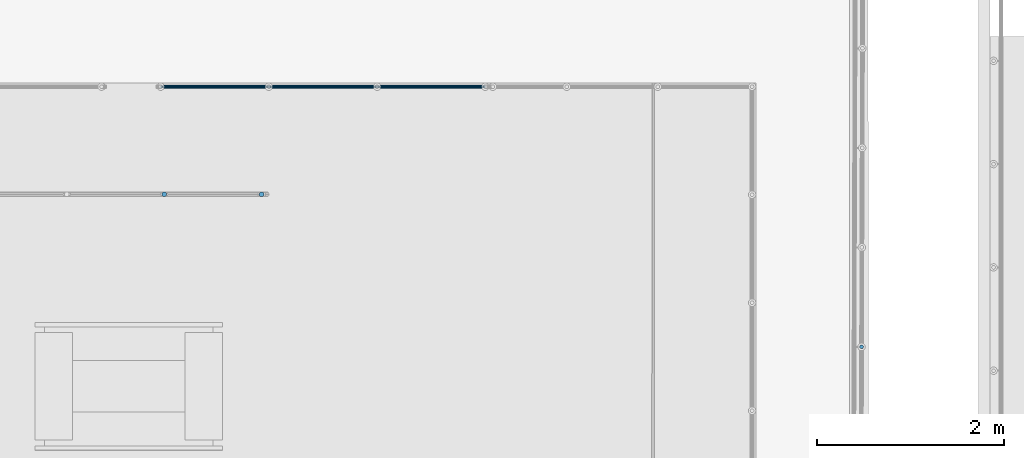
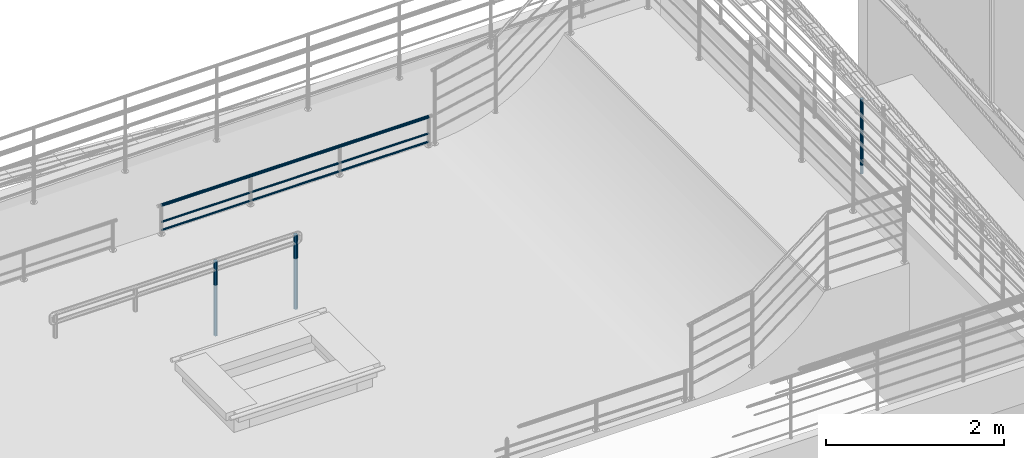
# One storey, part 49 of 237: 6 building element parts, 3 elements without a shape of their own.
"""IFC2X3 building model written with IfcOpenShell, lengths in millimetres."""

from ifc_helpers import new_model, entity, si_unit, converted_unit, derived_unit, money_unit, direction, frame, origin_with_axes, place, context, subcontext, project, spatial, faceted_brep, material, type_object, element, aggregate, save


model = new_model("IFC2X3")

# Units and contexts
model_context = context("Model", 3, precision=0.01, world=origin_with_axes(), true_north=direction((0.0, 1.0)))
body_context = subcontext(model_context, "Body", "Model", "MODEL_VIEW")
ifc_project = project(units=[si_unit("LENGTHUNIT", "METRE", prefix="MILLI"), si_unit("AREAUNIT", "SQUARE_METRE"), si_unit("VOLUMEUNIT", "CUBIC_METRE"), converted_unit("PLANEANGLEUNIT", "DEGREE", entity("IfcPlaneAngleMeasure", 0.0174532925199), si_unit("PLANEANGLEUNIT", "RADIAN"), dimensions=[0, 0, 0, 0, 0, 0, 0]), money_unit("USD"), converted_unit("TIMEUNIT", "Year", entity("IfcTimeMeasure", 31556926.0), si_unit("TIMEUNIT", "SECOND"), dimensions=[0, 0, 1, 0, 0, 0, 0]), si_unit("MASSUNIT", "GRAM", prefix="KILO"), si_unit("THERMODYNAMICTEMPERATUREUNIT", "DEGREE_CELSIUS"), si_unit("LUMINOUSINTENSITYUNIT", "LUMEN"), si_unit("ENERGYUNIT", "JOULE", prefix="MEGA"), derived_unit("THERMALCONDUCTANCEUNIT", [(si_unit("POWERUNIT", "WATT"), 1), (si_unit("LENGTHUNIT", "METRE"), -1), (si_unit("THERMODYNAMICTEMPERATUREUNIT", "KELVIN"), -1)]), derived_unit("SPECIFICHEATCAPACITYUNIT", [(si_unit("ENERGYUNIT", "JOULE"), 1), (si_unit("MASSUNIT", "GRAM", prefix="KILO"), -1), (si_unit("THERMODYNAMICTEMPERATUREUNIT", "KELVIN"), -1)]), derived_unit("MASSDENSITYUNIT", [(si_unit("MASSUNIT", "GRAM", prefix="KILO"), 1), (si_unit("VOLUMEUNIT", "CUBIC_METRE"), -1)])], contexts=[model_context])

# Site, building, storey
site_placement = place(None, origin_with_axes())
site = spatial("IfcSite", under=ifc_project, at=site_placement, Name="Local", CompositionType="ELEMENT")
building_placement = place(site_placement, origin_with_axes())
building = spatial("IfcBuilding", under=site, at=building_placement, Name="Construção", CompositionType="ELEMENT")
storey_placement = place(building_placement, origin_with_axes())
storey = spatial("IfcBuildingStorey", under=building, at=storey_placement, Name="Pavimento Térreo", CompositionType="ELEMENT", Elevation=0.0)

# Railing, building element part
railing_type = type_object("IfcRailingType", Name="Tipo de Guarda-Corpo", PredefinedType="NOTDEFINED")
railing_1_placement = place(storey_placement, frame((70326.6870103, 28675.2458388, -1357.10819655), z_axis=(0.0, 0.0, 1.0), x_axis=(1.0, 0.0, 0.0)))
railing_1 = element("IfcRailing", 1, at=railing_1_placement, inside=storey, type_object=railing_type, Name="Guarda-Corpo - 004", PredefinedType="NOTDEFINED")
ifc_material_1 = material(Name="Aço - Inoxidável")
building_element_part_1_placement = place(railing_1_placement, origin_with_axes())
building_element_part_1 = element("IfcBuildingElementPart", 2, at=building_element_part_1_placement, material=ifc_material_1, Name="Aço - Inoxidável", context=body_context, shape_type="Brep", body=[
    faceted_brep([(-4714.92495282, 2396.12667409, 5.0), (-4714.61071051, 2399.5987123, 5.0), (-4714.61071051, 2399.5987123, 1030.0), (-4714.92495282, 2396.12667409, 1030.0), (-4714.90415536, 2403.07257006, 5.0), (-4715.83733419, 2392.76195154, 5.0), (-4717.32013238, 2389.60678005, 5.0), (-4719.32829331, 2386.75702791, 5.0), (-4721.80080003, 2384.29928339, 5.0), (-4724.66252667, 2382.30822382, 5.0), (-4727.82652112, 2380.84434653, 5.0), (-4731.19664701, 2379.9521307, 5.0), (-4734.67050476, 2379.65868586, 5.0), (-4738.14254298, 2379.97292817, 5.0), (-4741.50726553, 2380.88530954, 5.0), (-4744.66243702, 2382.36810772, 5.0), (-4747.51218916, 2384.37626865, 5.0), (-4749.96993368, 2386.84877537, 5.0), (-4751.96099325, 2389.71050201, 5.0), (-4753.42487053, 2392.87449646, 5.0), (-4754.31708636, 2396.24462235, 5.0), (-4754.61053121, 2399.71848011, 5.0), (-4754.2962889, 2403.19051832, 5.0), (-4753.38390753, 2406.55524087, 5.0), (-4751.90110935, 2409.71041236, 5.0), (-4749.89294842, 2412.5601645, 5.0), (-4747.4204417, 2415.01790902, 5.0), (-4744.55871505, 2417.00896859, 5.0), (-4741.3947206, 2418.47284588, 5.0), (-4738.02459472, 2419.36506171, 5.0), (-4734.55073696, 2419.65850655, 5.0), (-4731.07869874, 2419.34426424, 5.0), (-4727.7139762, 2418.43188287, 5.0), (-4724.55880471, 2416.94908469, 5.0), (-4721.70905256, 2414.94092376, 5.0), (-4719.25130805, 2412.46841704, 5.0), (-4717.26024848, 2409.6066904, 5.0), (-4715.79637119, 2406.44269595, 5.0), (-4714.90415536, 2403.07257006, 1030.0), (-4738.14254298, 2379.97292817, 1030.0), (-4734.67050476, 2379.65868586, 1030.0), (-4731.19664701, 2379.9521307, 1030.0), (-4727.82652112, 2380.84434653, 1030.0), (-4724.66252667, 2382.30822382, 1030.0), (-4721.80080003, 2384.29928339, 1030.0), (-4719.32829331, 2386.75702791, 1030.0), (-4717.32013238, 2389.60678005, 1030.0), (-4715.83733419, 2392.76195154, 1030.0), (-4715.79637119, 2406.44269595, 1030.0), (-4717.26024848, 2409.6066904, 1030.0), (-4719.25130805, 2412.46841704, 1030.0), (-4721.70905256, 2414.94092376, 1030.0), (-4724.55880471, 2416.94908469, 1030.0), (-4727.7139762, 2418.43188287, 1030.0), (-4731.07869874, 2419.34426424, 1030.0), (-4734.55073696, 2419.65850655, 1030.0), (-4738.02459472, 2419.36506171, 1030.0), (-4741.3947206, 2418.47284588, 1030.0), (-4744.55871505, 2417.00896859, 1030.0), (-4747.4204417, 2415.01790902, 1030.0), (-4749.89294842, 2412.5601645, 1030.0), (-4751.90110935, 2409.71041236, 1030.0), (-4753.38390753, 2406.55524087, 1030.0), (-4754.2962889, 2403.19051832, 1030.0), (-4754.61053121, 2399.71848011, 1030.0), (-4754.31708636, 2396.24462235, 1030.0), (-4753.42487053, 2392.87449646, 1030.0), (-4751.96099325, 2389.71050201, 1030.0), (-4749.96993368, 2386.84877537, 1030.0), (-4747.51218916, 2384.37626865, 1030.0), (-4744.66243702, 2382.36810772, 1030.0), (-4741.50726553, 2380.88530954, 1030.0)], [[[0, 1, 2, 3]], [[4, 1, 0, 5, 6, 7, 8, 9, 10, 11, 12, 13, 14, 15, 16, 17, 18, 19, 20, 21, 22, 23, 24, 25, 26, 27, 28, 29, 30, 31, 32, 33, 34, 35, 36, 37]], [[1, 4, 38, 2]], [[39, 40, 41, 42, 43, 44, 45, 46, 47, 3, 2, 38, 48, 49, 50, 51, 52, 53, 54, 55, 56, 57, 58, 59, 60, 61, 62, 63, 64, 65, 66, 67, 68, 69, 70, 71]], [[5, 0, 3, 47]], [[6, 5, 47, 46]], [[7, 6, 46, 45]], [[8, 7, 45, 44]], [[9, 8, 44, 43]], [[10, 9, 43, 42]], [[11, 10, 42, 41]], [[12, 11, 41, 40]], [[13, 12, 40, 39]], [[14, 13, 39, 71]], [[15, 14, 71, 70]], [[16, 15, 70, 69]], [[17, 16, 69, 68]], [[18, 17, 68, 67]], [[19, 18, 67, 66]], [[20, 19, 66, 65]], [[21, 20, 65, 64]], [[22, 21, 64, 63]], [[23, 22, 63, 62]], [[24, 23, 62, 61]], [[25, 24, 61, 60]], [[26, 25, 60, 59]], [[27, 26, 59, 58]], [[28, 27, 58, 57]], [[29, 28, 57, 56]], [[30, 29, 56, 55]], [[31, 30, 55, 54]], [[32, 31, 54, 53]], [[33, 32, 53, 52]], [[34, 33, 52, 51]], [[35, 34, 51, 50]], [[36, 35, 50, 49]], [[37, 36, 49, 48]], [[4, 37, 48, 38]]]),
])
aggregate(railing_1, [building_element_part_1])

# Railing, building element parts
railing_2_placement = place(storey_placement, frame((61612.4440926, 33894.7133519, -1887.10818411), z_axis=(0.0, 0.0, 1.0), x_axis=(-1.0, 0.0, 0.0)))
railing_2 = element("IfcRailing", 3, at=railing_2_placement, inside=storey, type_object=railing_type, Name="Guarda-Corpo - 002", PredefinedType="NOTDEFINED")
building_element_part_2_placement = place(railing_2_placement, origin_with_axes())
building_element_part_2 = element("IfcBuildingElementPart", 4, at=building_element_part_2_placement, material=ifc_material_1, Name="Aço - Inoxidável", context=body_context, shape_type="Brep", body=[
    faceted_brep([(40.0, 60.0, 1030.0), (40.0, 59.6961550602, 1033.47296355), (3510.0, 59.6961550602, 1033.47296355), (3510.0, 60.0, 1030.0), (40.0, 59.6961550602, 1026.52703645), (40.0, 58.7938524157, 1023.15959713), (40.0, 57.3205080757, 1020.0), (40.0, 55.3208888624, 1017.14424781), (40.0, 52.8557521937, 1014.67911114), (40.0, 50.0, 1012.67949192), (40.0, 46.8404028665, 1011.20614758), (40.0, 43.4729635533, 1010.30384494), (40.0, 40.0, 1010.0), (40.0, 36.5270364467, 1010.30384494), (40.0, 33.1595971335, 1011.20614758), (40.0, 30.0, 1012.67949192), (40.0, 27.1442478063, 1014.67911114), (40.0, 24.6791111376, 1017.14424781), (40.0, 22.6794919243, 1020.0), (40.0, 21.2061475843, 1023.15959713), (40.0, 20.3038449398, 1026.52703645), (40.0, 20.0, 1030.0), (40.0, 20.3038449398, 1033.47296355), (40.0, 21.2061475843, 1036.84040287), (40.0, 22.6794919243, 1040.0), (40.0, 24.6791111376, 1042.85575219), (40.0, 27.1442478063, 1045.32088886), (40.0, 30.0, 1047.32050808), (40.0, 33.1595971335, 1048.79385242), (40.0, 36.5270364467, 1049.69615506), (40.0, 40.0, 1050.0), (40.0, 43.4729635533, 1049.69615506), (40.0, 46.8404028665, 1048.79385242), (40.0, 50.0, 1047.32050808), (40.0, 52.8557521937, 1045.32088886), (40.0, 55.3208888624, 1042.85575219), (40.0, 57.3205080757, 1040.0), (40.0, 58.7938524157, 1036.84040287), (3510.0, 58.7938524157, 1036.84040287), (3510.0, 57.3205080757, 1040.0), (3510.0, 55.3208888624, 1042.85575219), (3510.0, 52.8557521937, 1045.32088886), (3510.0, 50.0, 1047.32050808), (3510.0, 46.8404028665, 1048.79385242), (3510.0, 43.4729635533, 1049.69615506), (3510.0, 40.0, 1050.0), (3510.0, 36.5270364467, 1049.69615506), (3510.0, 33.1595971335, 1048.79385242), (3510.0, 30.0, 1047.32050808), (3510.0, 27.1442478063, 1045.32088886), (3510.0, 24.6791111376, 1042.85575219), (3510.0, 22.6794919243, 1040.0), (3510.0, 21.2061475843, 1036.84040287), (3510.0, 20.3038449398, 1033.47296355), (3510.0, 20.0, 1030.0), (3510.0, 20.3038449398, 1026.52703645), (3510.0, 21.2061475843, 1023.15959713), (3510.0, 22.6794919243, 1020.0), (3510.0, 24.6791111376, 1017.14424781), (3510.0, 27.1442478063, 1014.67911114), (3510.0, 30.0, 1012.67949192), (3510.0, 33.1595971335, 1011.20614758), (3510.0, 36.5270364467, 1010.30384494), (3510.0, 40.0, 1010.0), (3510.0, 43.4729635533, 1010.30384494), (3510.0, 46.8404028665, 1011.20614758), (3510.0, 50.0, 1012.67949192), (3510.0, 52.8557521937, 1014.67911114), (3510.0, 55.3208888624, 1017.14424781), (3510.0, 57.3205080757, 1020.0), (3510.0, 58.7938524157, 1023.15959713), (3510.0, 59.6961550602, 1026.52703645)], [[[0, 1, 2, 3]], [[0, 4, 5, 6, 7, 8, 9, 10, 11, 12, 13, 14, 15, 16, 17, 18, 19, 20, 21, 22, 23, 24, 25, 26, 27, 28, 29, 30, 31, 32, 33, 34, 35, 36, 37, 1]], [[1, 37, 38, 2]], [[3, 2, 38, 39, 40, 41, 42, 43, 44, 45, 46, 47, 48, 49, 50, 51, 52, 53, 54, 55, 56, 57, 58, 59, 60, 61, 62, 63, 64, 65, 66, 67, 68, 69, 70, 71]], [[4, 0, 3, 71]], [[5, 4, 71, 70]], [[6, 5, 70, 69]], [[7, 6, 69, 68]], [[8, 7, 68, 67]], [[9, 8, 67, 66]], [[10, 9, 66, 65]], [[11, 10, 65, 64]], [[12, 11, 64, 63]], [[13, 12, 63, 62]], [[14, 13, 62, 61]], [[15, 14, 61, 60]], [[16, 15, 60, 59]], [[17, 16, 59, 58]], [[18, 17, 58, 57]], [[19, 18, 57, 56]], [[20, 19, 56, 55]], [[21, 20, 55, 54]], [[22, 21, 54, 53]], [[23, 22, 53, 52]], [[24, 23, 52, 51]], [[25, 24, 51, 50]], [[26, 25, 50, 49]], [[27, 26, 49, 48]], [[28, 27, 48, 47]], [[29, 28, 47, 46]], [[30, 29, 46, 45]], [[31, 30, 45, 44]], [[32, 31, 44, 43]], [[33, 32, 43, 42]], [[34, 33, 42, 41]], [[35, 34, 41, 40]], [[36, 35, 40, 39]], [[37, 36, 39, 38]]]),
])
building_element_part_3_placement = place(railing_2_placement, origin_with_axes())
building_element_part_3 = element("IfcBuildingElementPart", 5, at=building_element_part_3_placement, material=ifc_material_1, Name="Aço - Inoxidável", context=body_context, shape_type="Brep", body=[
    faceted_brep([(40.0, 50.0, 687.132352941), (40.0, 49.8480775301, 688.868834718), (3510.0, 49.8480775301, 688.868834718), (3510.0, 50.0, 687.132352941), (40.0, 49.8480775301, 685.395871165), (40.0, 49.3969262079, 683.712151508), (40.0, 48.6602540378, 682.132352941), (40.0, 47.6604444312, 680.704476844), (40.0, 46.4278760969, 679.47190851), (40.0, 45.0, 678.472098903), (40.0, 43.4202014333, 677.735426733), (40.0, 41.7364817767, 677.284275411), (40.0, 40.0, 677.132352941), (40.0, 38.2635182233, 677.284275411), (40.0, 36.5797985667, 677.735426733), (40.0, 35.0, 678.472098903), (40.0, 33.5721239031, 679.47190851), (40.0, 32.3395555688, 680.704476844), (40.0, 31.3397459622, 682.132352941), (40.0, 30.6030737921, 683.712151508), (40.0, 30.1519224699, 685.395871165), (40.0, 30.0, 687.132352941), (40.0, 30.1519224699, 688.868834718), (40.0, 30.6030737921, 690.552554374), (40.0, 31.3397459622, 692.132352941), (40.0, 32.3395555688, 693.560229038), (40.0, 33.5721239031, 694.792797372), (40.0, 35.0, 695.792606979), (40.0, 36.5797985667, 696.529279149), (40.0, 38.2635182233, 696.980430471), (40.0, 40.0, 697.132352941), (40.0, 41.7364817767, 696.980430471), (40.0, 43.4202014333, 696.529279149), (40.0, 45.0, 695.792606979), (40.0, 46.4278760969, 694.792797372), (40.0, 47.6604444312, 693.560229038), (40.0, 48.6602540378, 692.132352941), (40.0, 49.3969262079, 690.552554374), (3510.0, 49.3969262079, 690.552554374), (3510.0, 48.6602540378, 692.132352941), (3510.0, 47.6604444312, 693.560229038), (3510.0, 46.4278760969, 694.792797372), (3510.0, 45.0, 695.792606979), (3510.0, 43.4202014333, 696.529279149), (3510.0, 41.7364817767, 696.980430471), (3510.0, 40.0, 697.132352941), (3510.0, 38.2635182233, 696.980430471), (3510.0, 36.5797985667, 696.529279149), (3510.0, 35.0, 695.792606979), (3510.0, 33.5721239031, 694.792797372), (3510.0, 32.3395555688, 693.560229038), (3510.0, 31.3397459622, 692.132352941), (3510.0, 30.6030737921, 690.552554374), (3510.0, 30.1519224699, 688.868834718), (3510.0, 30.0, 687.132352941), (3510.0, 30.1519224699, 685.395871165), (3510.0, 30.6030737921, 683.712151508), (3510.0, 31.3397459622, 682.132352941), (3510.0, 32.3395555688, 680.704476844), (3510.0, 33.5721239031, 679.47190851), (3510.0, 35.0, 678.472098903), (3510.0, 36.5797985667, 677.735426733), (3510.0, 38.2635182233, 677.284275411), (3510.0, 40.0, 677.132352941), (3510.0, 41.7364817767, 677.284275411), (3510.0, 43.4202014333, 677.735426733), (3510.0, 45.0, 678.472098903), (3510.0, 46.4278760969, 679.47190851), (3510.0, 47.6604444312, 680.704476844), (3510.0, 48.6602540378, 682.132352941), (3510.0, 49.3969262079, 683.712151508), (3510.0, 49.8480775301, 685.395871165)], [[[0, 1, 2, 3]], [[0, 4, 5, 6, 7, 8, 9, 10, 11, 12, 13, 14, 15, 16, 17, 18, 19, 20, 21, 22, 23, 24, 25, 26, 27, 28, 29, 30, 31, 32, 33, 34, 35, 36, 37, 1]], [[1, 37, 38, 2]], [[3, 2, 38, 39, 40, 41, 42, 43, 44, 45, 46, 47, 48, 49, 50, 51, 52, 53, 54, 55, 56, 57, 58, 59, 60, 61, 62, 63, 64, 65, 66, 67, 68, 69, 70, 71]], [[4, 0, 3, 71]], [[5, 4, 71, 70]], [[6, 5, 70, 69]], [[7, 6, 69, 68]], [[8, 7, 68, 67]], [[9, 8, 67, 66]], [[10, 9, 66, 65]], [[11, 10, 65, 64]], [[12, 11, 64, 63]], [[13, 12, 63, 62]], [[14, 13, 62, 61]], [[15, 14, 61, 60]], [[16, 15, 60, 59]], [[17, 16, 59, 58]], [[18, 17, 58, 57]], [[19, 18, 57, 56]], [[20, 19, 56, 55]], [[21, 20, 55, 54]], [[22, 21, 54, 53]], [[23, 22, 53, 52]], [[24, 23, 52, 51]], [[25, 24, 51, 50]], [[26, 25, 50, 49]], [[27, 26, 49, 48]], [[28, 27, 48, 47]], [[29, 28, 47, 46]], [[30, 29, 46, 45]], [[31, 30, 45, 44]], [[32, 31, 44, 43]], [[33, 32, 43, 42]], [[34, 33, 42, 41]], [[35, 34, 41, 40]], [[36, 35, 40, 39]], [[37, 36, 39, 38]]]),
])
building_element_part_4_placement = place(railing_2_placement, origin_with_axes())
building_element_part_4 = element("IfcBuildingElementPart", 6, at=building_element_part_4_placement, material=ifc_material_1, Name="Aço - Inoxidável", context=body_context, shape_type="Brep", body=[
    faceted_brep([(40.0, 50.0, 800.0), (40.0, 49.8480775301, 801.736481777), (3510.0, 49.8480775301, 801.736481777), (3510.0, 50.0, 800.0), (40.0, 49.8480775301, 798.263518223), (40.0, 49.3969262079, 796.579798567), (40.0, 48.6602540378, 795.0), (40.0, 47.6604444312, 793.572123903), (40.0, 46.4278760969, 792.339555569), (40.0, 45.0, 791.339745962), (40.0, 43.4202014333, 790.603073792), (40.0, 41.7364817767, 790.15192247), (40.0, 40.0, 790.0), (40.0, 38.2635182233, 790.15192247), (40.0, 36.5797985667, 790.603073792), (40.0, 35.0, 791.339745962), (40.0, 33.5721239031, 792.339555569), (40.0, 32.3395555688, 793.572123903), (40.0, 31.3397459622, 795.0), (40.0, 30.6030737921, 796.579798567), (40.0, 30.1519224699, 798.263518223), (40.0, 30.0, 800.0), (40.0, 30.1519224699, 801.736481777), (40.0, 30.6030737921, 803.420201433), (40.0, 31.3397459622, 805.0), (40.0, 32.3395555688, 806.427876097), (40.0, 33.5721239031, 807.660444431), (40.0, 35.0, 808.660254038), (40.0, 36.5797985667, 809.396926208), (40.0, 38.2635182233, 809.84807753), (40.0, 40.0, 810.0), (40.0, 41.7364817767, 809.84807753), (40.0, 43.4202014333, 809.396926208), (40.0, 45.0, 808.660254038), (40.0, 46.4278760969, 807.660444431), (40.0, 47.6604444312, 806.427876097), (40.0, 48.6602540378, 805.0), (40.0, 49.3969262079, 803.420201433), (3510.0, 49.3969262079, 803.420201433), (3510.0, 48.6602540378, 805.0), (3510.0, 47.6604444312, 806.427876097), (3510.0, 46.4278760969, 807.660444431), (3510.0, 45.0, 808.660254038), (3510.0, 43.4202014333, 809.396926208), (3510.0, 41.7364817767, 809.84807753), (3510.0, 40.0, 810.0), (3510.0, 38.2635182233, 809.84807753), (3510.0, 36.5797985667, 809.396926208), (3510.0, 35.0, 808.660254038), (3510.0, 33.5721239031, 807.660444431), (3510.0, 32.3395555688, 806.427876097), (3510.0, 31.3397459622, 805.0), (3510.0, 30.6030737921, 803.420201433), (3510.0, 30.1519224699, 801.736481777), (3510.0, 30.0, 800.0), (3510.0, 30.1519224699, 798.263518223), (3510.0, 30.6030737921, 796.579798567), (3510.0, 31.3397459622, 795.0), (3510.0, 32.3395555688, 793.572123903), (3510.0, 33.5721239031, 792.339555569), (3510.0, 35.0, 791.339745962), (3510.0, 36.5797985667, 790.603073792), (3510.0, 38.2635182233, 790.15192247), (3510.0, 40.0, 790.0), (3510.0, 41.7364817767, 790.15192247), (3510.0, 43.4202014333, 790.603073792), (3510.0, 45.0, 791.339745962), (3510.0, 46.4278760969, 792.339555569), (3510.0, 47.6604444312, 793.572123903), (3510.0, 48.6602540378, 795.0), (3510.0, 49.3969262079, 796.579798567), (3510.0, 49.8480775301, 798.263518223)], [[[0, 1, 2, 3]], [[0, 4, 5, 6, 7, 8, 9, 10, 11, 12, 13, 14, 15, 16, 17, 18, 19, 20, 21, 22, 23, 24, 25, 26, 27, 28, 29, 30, 31, 32, 33, 34, 35, 36, 37, 1]], [[1, 37, 38, 2]], [[3, 2, 38, 39, 40, 41, 42, 43, 44, 45, 46, 47, 48, 49, 50, 51, 52, 53, 54, 55, 56, 57, 58, 59, 60, 61, 62, 63, 64, 65, 66, 67, 68, 69, 70, 71]], [[4, 0, 3, 71]], [[5, 4, 71, 70]], [[6, 5, 70, 69]], [[7, 6, 69, 68]], [[8, 7, 68, 67]], [[9, 8, 67, 66]], [[10, 9, 66, 65]], [[11, 10, 65, 64]], [[12, 11, 64, 63]], [[13, 12, 63, 62]], [[14, 13, 62, 61]], [[15, 14, 61, 60]], [[16, 15, 60, 59]], [[17, 16, 59, 58]], [[18, 17, 58, 57]], [[19, 18, 57, 56]], [[20, 19, 56, 55]], [[21, 20, 55, 54]], [[22, 21, 54, 53]], [[23, 22, 53, 52]], [[24, 23, 52, 51]], [[25, 24, 51, 50]], [[26, 25, 50, 49]], [[27, 26, 49, 48]], [[28, 27, 48, 47]], [[29, 28, 47, 46]], [[30, 29, 46, 45]], [[31, 30, 45, 44]], [[32, 31, 44, 43]], [[33, 32, 43, 42]], [[34, 33, 42, 41]], [[35, 34, 41, 40]], [[36, 35, 40, 39]], [[37, 36, 39, 38]]]),
])
aggregate(railing_2, [building_element_part_2, building_element_part_3, building_element_part_4])

railing_3_placement = place(storey_placement, frame((56020.9807317, 32685.2089387, -1957.10819431), z_axis=(0.0, 0.0, 1.0), x_axis=(1.0, 0.0, 0.0)))
railing_3 = element("IfcRailing", 7, at=railing_3_placement, inside=storey, type_object=railing_type, Name="Guarda-Corpo - 001", PredefinedType="NOTDEFINED")
ifc_material_2 = material(Name="Aço - Estrutural")
building_element_part_5_placement = place(railing_3_placement, origin_with_axes())
building_element_part_5 = element("IfcBuildingElementPart", 8, at=building_element_part_5_placement, material=ifc_material_2, Name="Aço - Estrutural", context=body_context, shape_type="Brep", body=[
    faceted_brep([(3174.85735122, 0.0, 5.0), (3176.06969024, 0.848888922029, 5.0), (3176.06969024, 0.848888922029, 1020.0), (3172.5, -1.65063509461, 1020.0), (3172.5, -1.65063509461, 0.0), (3174.85735122, 0.0, 0.0), (3145.14264878, 0.0, 5.0), (3143.93030976, 0.848888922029, 5.0), (3140.84888892, 3.93030975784, 5.0), (3138.34936491, 7.5, 5.0), (3136.50768448, 11.4494964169, 5.0), (3135.37980617, 15.6587955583, 5.0), (3135.0, 20.0, 5.0), (3135.37980617, 24.3412044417, 5.0), (3136.50768448, 28.5505035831, 5.0), (3138.34936491, 32.5, 5.0), (3140.84888892, 36.0696902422, 5.0), (3143.93030976, 39.151111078, 5.0), (3145.14264878, 40.0, 5.0), (3174.85735122, 40.0, 5.0), (3176.06969024, 39.151111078, 5.0), (3179.15111108, 36.0696902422, 5.0), (3181.65063509, 32.5, 5.0), (3183.49231552, 28.5505035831, 5.0), (3184.62019383, 24.3412044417, 5.0), (3185.0, 20.0, 5.0), (3184.62019383, 15.6587955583, 5.0), (3183.49231552, 11.4494964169, 5.0), (3181.65063509, 7.5, 5.0), (3179.15111108, 3.93030975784, 5.0), (3179.15111108, 3.93030975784, 1020.0), (3135.37980617, 24.3412044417, 1020.0), (3135.0, 20.0, 1020.0), (3135.37980617, 15.6587955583, 1020.0), (3136.50768448, 11.4494964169, 1020.0), (3138.34936491, 7.5, 1020.0), (3140.84888892, 3.93030975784, 1020.0), (3143.93030976, 0.848888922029, 1020.0), (3147.5, -1.65063509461, 1020.0), (3151.44949642, -3.49231551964, 1020.0), (3155.65879556, -4.6201938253, 1020.0), (3160.0, -5.0, 1020.0), (3164.34120444, -4.6201938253, 1020.0), (3168.55050358, -3.49231551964, 1020.0), (3181.65063509, 7.5, 1020.0), (3183.49231552, 11.4494964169, 1020.0), (3184.62019383, 15.6587955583, 1020.0), (3185.0, 20.0, 1020.0), (3184.62019383, 24.3412044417, 1020.0), (3183.49231552, 28.5505035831, 1020.0), (3181.65063509, 32.5, 1020.0), (3179.15111108, 36.0696902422, 1020.0), (3176.06969024, 39.151111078, 1020.0), (3172.5, 41.6506350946, 1020.0), (3168.55050358, 43.4923155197, 1020.0), (3164.34120444, 44.6201938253, 1020.0), (3160.0, 45.0, 1020.0), (3155.65879556, 44.6201938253, 1020.0), (3151.44949642, 43.4923155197, 1020.0), (3147.5, 41.6506350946, 1020.0), (3143.93030976, 39.151111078, 1020.0), (3140.84888892, 36.0696902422, 1020.0), (3138.34936491, 32.5, 1020.0), (3136.50768448, 28.5505035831, 1020.0), (3168.55050358, -3.49231551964, 0.0), (3145.14264878, 0.0, 0.0), (3164.34120444, -4.6201938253, 0.0), (3160.0, -5.0, 0.0), (3155.65879556, -4.6201938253, 0.0), (3151.44949642, -3.49231551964, 0.0), (3147.5, -1.65063509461, 0.0), (3147.5, 41.6506350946, 0.0), (3145.14264878, 40.0, 0.0), (3174.85735122, 40.0, 0.0), (3172.5, 41.6506350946, 0.0), (3168.55050358, 43.4923155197, 0.0), (3164.34120444, 44.6201938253, 0.0), (3160.0, 45.0, 0.0), (3155.65879556, 44.6201938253, 0.0), (3151.44949642, 43.4923155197, 0.0)], [[[0, 1, 2, 3, 4, 5]], [[1, 0, 6, 7, 8, 9, 10, 11, 12, 13, 14, 15, 16, 17, 18, 19, 20, 21, 22, 23, 24, 25, 26, 27, 28, 29]], [[1, 29, 30, 2]], [[31, 32, 33, 34, 35, 36, 37, 38, 39, 40, 41, 42, 43, 3, 2, 30, 44, 45, 46, 47, 48, 49, 50, 51, 52, 53, 54, 55, 56, 57, 58, 59, 60, 61, 62, 63]], [[43, 64, 4, 3]], [[65, 5, 4, 64, 66, 67, 68, 69, 70]], [[0, 5, 65, 6]], [[6, 65, 70, 38, 37, 7]], [[8, 7, 37, 36]], [[9, 8, 36, 35]], [[10, 9, 35, 34]], [[11, 10, 34, 33]], [[12, 11, 33, 32]], [[13, 12, 32, 31]], [[14, 13, 31, 63]], [[15, 14, 63, 62]], [[16, 15, 62, 61]], [[17, 16, 61, 60]], [[18, 17, 60, 59, 71, 72]], [[73, 19, 18, 72]], [[19, 73, 74, 53, 52, 20]], [[21, 20, 52, 51]], [[22, 21, 51, 50]], [[23, 22, 50, 49]], [[24, 23, 49, 48]], [[25, 24, 48, 47]], [[26, 25, 47, 46]], [[27, 26, 46, 45]], [[28, 27, 45, 44]], [[29, 28, 44, 30]], [[38, 70, 69, 39]], [[39, 69, 68, 40]], [[40, 68, 67, 41]], [[41, 67, 66, 42]], [[42, 66, 64, 43]], [[53, 74, 75, 54]], [[54, 75, 76, 55]], [[55, 76, 77, 56]], [[56, 77, 78, 57]], [[57, 78, 79, 58]], [[58, 79, 71, 59]], [[73, 72, 71, 79, 78, 77, 76, 75, 74]]]),
])
building_element_part_6_placement = place(railing_3_placement, origin_with_axes())
building_element_part_6 = element("IfcBuildingElementPart", 9, at=building_element_part_6_placement, material=ifc_material_2, Name="Aço - Estrutural", context=body_context, shape_type="Brep", body=[
    faceted_brep([(2106.31919427, 1.20614758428, 0.0), (2113.05407289, 0.303844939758, 0.0), (2120.0, 0.0, 0.0), (2126.94592711, 0.303844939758, 0.0), (2133.68080573, 1.20614758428, 0.0), (2137.26189315, 2.04109182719, 0.0), (2136.06969024, 0.848888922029, 0.0), (2132.5, -1.65063509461, 0.0), (2128.55050358, -3.49231551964, 0.0), (2124.34120444, -4.6201938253, 0.0), (2120.0, -5.0, 0.0), (2115.65879556, -4.6201938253, 0.0), (2111.44949642, -3.49231551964, 0.0), (2107.5, -1.65063509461, 0.0), (2103.93030976, 0.848888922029, 0.0), (2102.73810685, 2.04109182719, 0.0), (2106.31919427, 1.20614758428, 5.0), (2113.05407289, 0.303844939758, 5.0), (2120.0, 0.0, 5.0), (2126.94592711, 0.303844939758, 5.0), (2133.68080573, 1.20614758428, 5.0), (2137.26189315, 2.04109182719, 5.0), (2139.15111108, 3.93030975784, 5.0), (2139.15111108, 3.93030975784, 1020.0), (2136.06969024, 0.848888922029, 1020.0), (2132.5, -1.65063509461, 1020.0), (2128.55050358, -3.49231551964, 1020.0), (2124.34120444, -4.6201938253, 1020.0), (2120.0, -5.0, 1020.0), (2115.65879556, -4.6201938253, 1020.0), (2111.44949642, -3.49231551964, 1020.0), (2107.5, -1.65063509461, 1020.0), (2103.93030976, 0.848888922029, 1020.0), (2102.73810685, 2.04109182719, 5.0), (2100.84888892, 3.93030975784, 1020.0), (2100.84888892, 3.93030975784, 5.0), (2098.34936491, 7.5, 5.0), (2096.50768448, 11.4494964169, 5.0), (2095.37980617, 15.6587955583, 5.0), (2095.0, 20.0, 5.0), (2095.37980617, 24.3412044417, 5.0), (2096.50768448, 28.5505035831, 5.0), (2098.34936491, 32.5, 5.0), (2100.84888892, 36.0696902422, 5.0), (2102.73810685, 37.9589081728, 5.0), (2106.31919427, 38.7938524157, 5.0), (2113.05407289, 39.6961550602, 5.0), (2120.0, 40.0, 5.0), (2126.94592711, 39.6961550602, 5.0), (2133.68080573, 38.7938524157, 5.0), (2137.26189315, 37.9589081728, 5.0), (2139.15111108, 36.0696902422, 5.0), (2141.65063509, 32.5, 5.0), (2143.49231552, 28.5505035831, 5.0), (2144.62019383, 24.3412044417, 5.0), (2145.0, 20.0, 5.0), (2144.62019383, 15.6587955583, 5.0), (2143.49231552, 11.4494964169, 5.0), (2141.65063509, 7.5, 5.0), (2141.65063509, 7.5, 1020.0), (2095.37980617, 24.3412044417, 1020.0), (2095.0, 20.0, 1020.0), (2095.37980617, 15.6587955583, 1020.0), (2096.50768448, 11.4494964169, 1020.0), (2098.34936491, 7.5, 1020.0), (2143.49231552, 11.4494964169, 1020.0), (2144.62019383, 15.6587955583, 1020.0), (2145.0, 20.0, 1020.0), (2144.62019383, 24.3412044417, 1020.0), (2143.49231552, 28.5505035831, 1020.0), (2141.65063509, 32.5, 1020.0), (2139.15111108, 36.0696902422, 1020.0), (2136.06969024, 39.151111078, 1020.0), (2132.5, 41.6506350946, 1020.0), (2128.55050358, 43.4923155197, 1020.0), (2124.34120444, 44.6201938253, 1020.0), (2120.0, 45.0, 1020.0), (2115.65879556, 44.6201938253, 1020.0), (2111.44949642, 43.4923155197, 1020.0), (2107.5, 41.6506350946, 1020.0), (2103.93030976, 39.151111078, 1020.0), (2100.84888892, 36.0696902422, 1020.0), (2098.34936491, 32.5, 1020.0), (2096.50768448, 28.5505035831, 1020.0), (2103.93030976, 39.151111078, 0.0), (2102.73810685, 37.9589081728, 0.0), (2106.31919427, 38.7938524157, 0.0), (2113.05407289, 39.6961550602, 0.0), (2120.0, 40.0, 0.0), (2126.94592711, 39.6961550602, 0.0), (2133.68080573, 38.7938524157, 0.0), (2137.26189315, 37.9589081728, 0.0), (2136.06969024, 39.151111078, 0.0), (2132.5, 41.6506350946, 0.0), (2128.55050358, 43.4923155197, 0.0), (2124.34120444, 44.6201938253, 0.0), (2120.0, 45.0, 0.0), (2115.65879556, 44.6201938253, 0.0), (2111.44949642, 43.4923155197, 0.0), (2107.5, 41.6506350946, 0.0)], [[[0, 1, 2, 3, 4, 5, 6, 7, 8, 9, 10, 11, 12, 13, 14, 15]], [[1, 0, 16, 17]], [[2, 1, 17, 18]], [[3, 2, 18, 19]], [[4, 3, 19, 20]], [[5, 4, 20, 21]], [[21, 22, 23, 24, 6, 5]], [[25, 7, 6, 24]], [[26, 8, 7, 25]], [[27, 9, 8, 26]], [[28, 10, 9, 27]], [[29, 11, 10, 28]], [[30, 12, 11, 29]], [[31, 13, 12, 30]], [[32, 14, 13, 31]], [[33, 15, 14, 32, 34, 35]], [[0, 15, 33, 16]], [[22, 21, 20, 19, 18, 17, 16, 33, 35, 36, 37, 38, 39, 40, 41, 42, 43, 44, 45, 46, 47, 48, 49, 50, 51, 52, 53, 54, 55, 56, 57, 58]], [[22, 58, 59, 23]], [[60, 61, 62, 63, 64, 34, 32, 31, 30, 29, 28, 27, 26, 25, 24, 23, 59, 65, 66, 67, 68, 69, 70, 71, 72, 73, 74, 75, 76, 77, 78, 79, 80, 81, 82, 83]], [[36, 35, 34, 64]], [[37, 36, 64, 63]], [[38, 37, 63, 62]], [[39, 38, 62, 61]], [[40, 39, 61, 60]], [[41, 40, 60, 83]], [[42, 41, 83, 82]], [[43, 42, 82, 81]], [[44, 43, 81, 80, 84, 85]], [[44, 85, 86, 45]], [[86, 87, 46, 45]], [[87, 88, 47, 46]], [[88, 89, 48, 47]], [[89, 90, 49, 48]], [[91, 50, 49, 90]], [[50, 91, 92, 72, 71, 51]], [[52, 51, 71, 70]], [[53, 52, 70, 69]], [[54, 53, 69, 68]], [[55, 54, 68, 67]], [[56, 55, 67, 66]], [[57, 56, 66, 65]], [[58, 57, 65, 59]], [[72, 92, 93, 73]], [[73, 93, 94, 74]], [[74, 94, 95, 75]], [[75, 95, 96, 76]], [[76, 96, 97, 77]], [[77, 97, 98, 78]], [[78, 98, 99, 79]], [[79, 99, 84, 80]], [[86, 85, 84, 99, 98, 97, 96, 95, 94, 93, 92, 91, 90, 89, 88, 87]]]),
])
aggregate(railing_3, [building_element_part_5, building_element_part_6])

save(model, "model.ifc")
